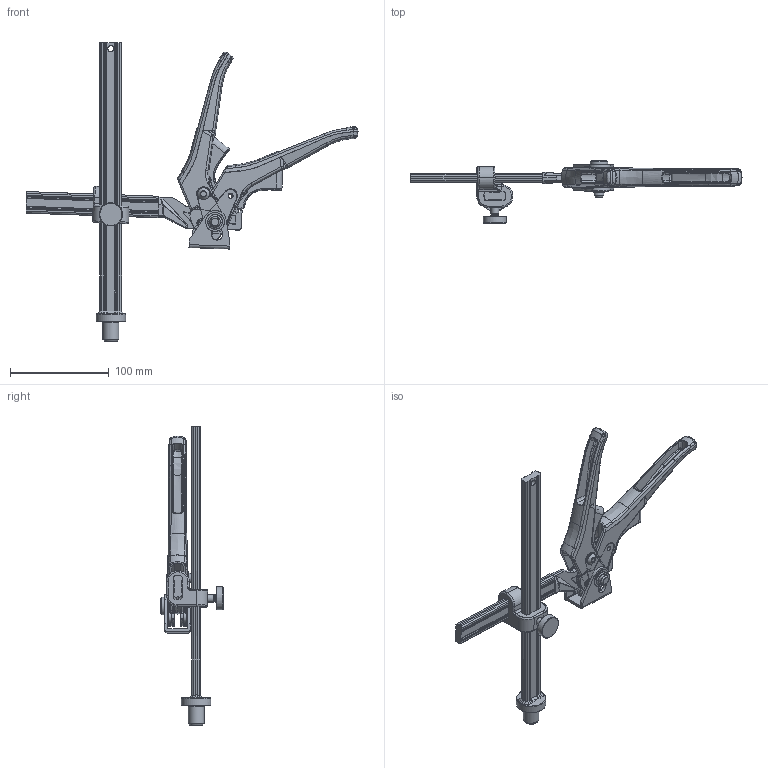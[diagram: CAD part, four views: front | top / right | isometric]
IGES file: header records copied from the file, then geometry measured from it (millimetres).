
Start section: ZWSOFT
Global section: file name: TWV16-20-15H.igs; native system: ZW3D; preprocessor: 1.0; author: ZW3D; organization: ZWSOFT; date: 250605.113655; units: millimetre
Bounding box: 336.85 x 63.76 x 303 mm (x, y, z)
Surface area: 123923.7 mm2 (no closed solid volume)
Topology: 0 solids, 0 shells, 2322 faces, 12950 edges, 12758 vertices
Faces by surface type: bspline 2322
